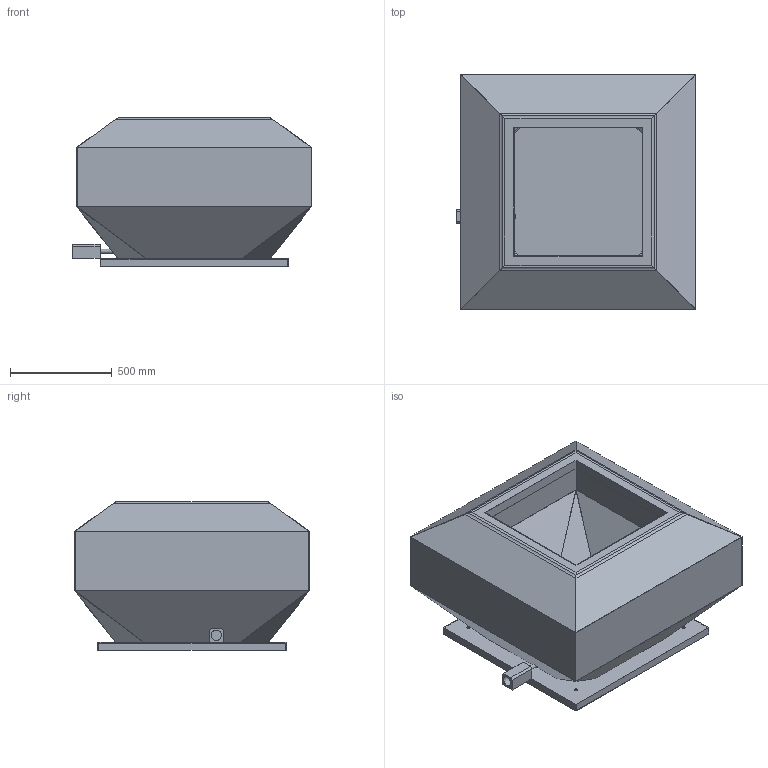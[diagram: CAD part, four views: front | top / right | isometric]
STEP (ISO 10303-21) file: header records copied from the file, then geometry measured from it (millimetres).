
FILE_DESCRIPTION(/* description */ (''),/* implementation_level */ '2;1');
FILE_NAME(/* name */ 'Z:\Output\VDD 630-6 EX-07448-001.stp',/* time_stamp */ '2017-05-05T17:39:56+02:00',/* author */ ('engineering1'),/* organization */ (''),/* preprocessor_version */ 'ST-DEVELOPER v16.5',/* originating_system */ 'Autodesk Inventor 2017',/* authorisation */ '');
FILE_SCHEMA (('AUTOMOTIVE_DESIGN { 1 0 10303 214 3 1 1 }'));
Length unit declared in the file: millimetre
Products named in the file (1): VD-1
Bounding box: 1176 x 1155 x 733 mm (x, y, z)
Volume: 10989517.2 mm3; surface area: 9682023.4 mm2
Topology: 1 solids, 1 shells, 81 faces, 187 edges, 112 vertices
Faces by surface type: plane 69, cylinder 10, bspline 2
Full cylindrical faces by diameter (mm): 10 x1, 14 x4, 20 x4, 50 x1
Entity records: 2227 total; most frequent: CARTESIAN_POINT 415, DIRECTION 351, ORIENTED_EDGE 344, EDGE_CURVE 171, LINE 151, VECTOR 151, EDGE_LOOP 110, VERTEX_POINT 110
